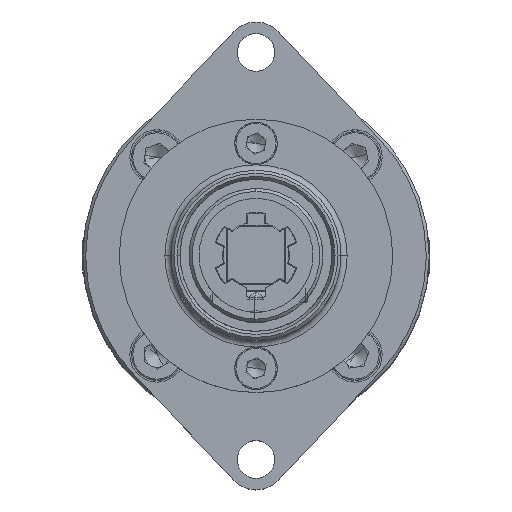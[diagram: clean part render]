
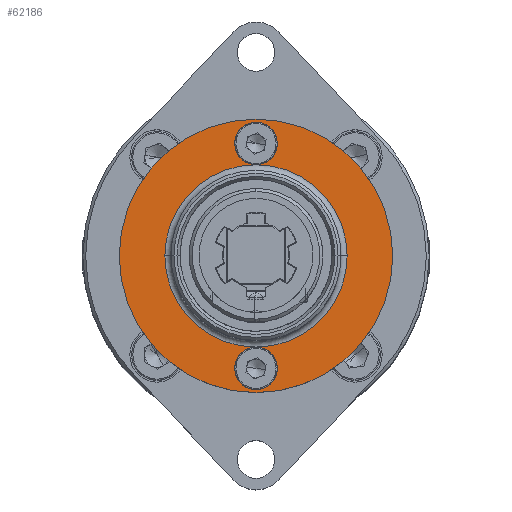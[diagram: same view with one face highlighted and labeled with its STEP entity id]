
A CAD part, top view. The second image highlights one B-rep face of the part: STEP entity #62186.
In plain terms, the highlighted planar face has unit normal (0, 0, 1).
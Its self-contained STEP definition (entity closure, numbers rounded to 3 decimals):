
#376 = DIRECTION ( 'NONE',  ( -1., 0., 0. ) ) ;
#966 = DIRECTION ( 'NONE',  ( 0., 0., 1. ) ) ;
#1004 = VERTEX_POINT ( 'NONE', #47673 ) ;
#1164 = AXIS2_PLACEMENT_3D ( 'NONE', #44330, #37409, #30505 ) ;
#1461 = VERTEX_POINT ( 'NONE', #20444 ) ;
#5680 = EDGE_CURVE ( 'NONE', #16303, #16757, #63317, .T. ) ;
#6707 = DIRECTION ( 'NONE',  ( -1., 0., 0. ) ) ;
#6791 = CIRCLE ( 'NONE', #43040, 3.5 ) ;
#7240 = DIRECTION ( 'NONE',  ( 0., 0., 1. ) ) ;
#7374 = CARTESIAN_POINT ( 'NONE',  ( 2.414, 17.96, 47.6 ) ) ;
#7486 = ORIENTED_EDGE ( 'NONE', *, *, #57465, .F. ) ;
#7809 = CARTESIAN_POINT ( 'NONE',  ( -1.086, -19.04, 47.6 ) ) ;
#8553 = DIRECTION ( 'NONE',  ( -1., 0., 0. ) ) ;
#8804 = AXIS2_PLACEMENT_3D ( 'NONE', #20464, #13594, #6707 ) ;
#10016 = ORIENTED_EDGE ( 'NONE', *, *, #23177, .T. ) ;
#10427 = VERTEX_POINT ( 'NONE', #7374 ) ;
#11132 = CIRCLE ( 'NONE', #1164, 3.5 ) ;
#11314 = CARTESIAN_POINT ( 'NONE',  ( -4.586, -19.04, 47.6 ) ) ;
#11786 = CARTESIAN_POINT ( 'NONE',  ( -1.086, -0.54, 47.6 ) ) ;
#13594 = DIRECTION ( 'NONE',  ( 0., 0., 1. ) ) ;
#13696 = DIRECTION ( 'NONE',  ( -1., 0., 0. ) ) ;
#14129 = CARTESIAN_POINT ( 'NONE',  ( -1.086, -0.54, 47.6 ) ) ;
#14207 = EDGE_CURVE ( 'NONE', #55293, #18981, #11132, .T. ) ;
#14294 = ORIENTED_EDGE ( 'NONE', *, *, #37477, .F. ) ;
#15327 = CIRCLE ( 'NONE', #8804, 3.5 ) ;
#15426 = DIRECTION ( 'NONE',  ( 0., 0., -1. ) ) ;
#16303 = VERTEX_POINT ( 'NONE', #59217 ) ;
#16757 = VERTEX_POINT ( 'NONE', #54662 ) ;
#18044 = FACE_BOUND ( 'NONE', #64609, .T. ) ;
#18242 = AXIS2_PLACEMENT_3D ( 'NONE', #36457, #29571, #22728 ) ;
#18794 = CARTESIAN_POINT ( 'NONE',  ( -1.086, -0.54, 47.6 ) ) ;
#18981 = VERTEX_POINT ( 'NONE', #30163 ) ;
#19774 = FACE_OUTER_BOUND ( 'NONE', #20829, .T. ) ;
#19885 = ORIENTED_EDGE ( 'NONE', *, *, #49207, .T. ) ;
#19889 = AXIS2_PLACEMENT_3D ( 'NONE', #42927, #15426, #8553 ) ;
#20444 = CARTESIAN_POINT ( 'NONE',  ( 21.414, -0.54, 47.6 ) ) ;
#20464 = CARTESIAN_POINT ( 'NONE',  ( -1.086, 17.96, 47.6 ) ) ;
#20467 = ORIENTED_EDGE ( 'NONE', *, *, #58301, .T. ) ;
#20568 = DIRECTION ( 'NONE',  ( 0., 0., 1. ) ) ;
#20829 = EDGE_LOOP ( 'NONE', ( #20467, #48745 ) ) ;
#20995 = PLANE ( 'NONE',  #59123 ) ;
#22108 = AXIS2_PLACEMENT_3D ( 'NONE', #7809, #966, #61128 ) ;
#22728 = DIRECTION ( 'NONE',  ( -1., 0., 0. ) ) ;
#23177 = EDGE_CURVE ( 'NONE', #16757, #1004, #54347, .T. ) ;
#23414 = CARTESIAN_POINT ( 'NONE',  ( 13.914, -0.54, 47.6 ) ) ;
#26097 = CIRCLE ( 'NONE', #22108, 3.5 ) ;
#26312 = CIRCLE ( 'NONE', #52502, 22.5 ) ;
#27286 = EDGE_CURVE ( 'NONE', #1004, #10427, #15327, .T. ) ;
#27340 = CARTESIAN_POINT ( 'NONE',  ( -23.586, -0.54, 47.6 ) ) ;
#27397 = CARTESIAN_POINT ( 'NONE',  ( -1.086, 17.96, 47.6 ) ) ;
#29571 = DIRECTION ( 'NONE',  ( 0., 0., 1. ) ) ;
#30163 = CARTESIAN_POINT ( 'NONE',  ( 2.414, -19.04, 47.6 ) ) ;
#30505 = DIRECTION ( 'NONE',  ( -1., 0., 0. ) ) ;
#30812 = CIRCLE ( 'NONE', #61703, 15. ) ;
#31389 = CARTESIAN_POINT ( 'NONE',  ( -4.586, 17.96, 47.6 ) ) ;
#31653 = CIRCLE ( 'NONE', #18242, 22.5 ) ;
#32427 = DIRECTION ( 'NONE',  ( -1., 0., 0. ) ) ;
#32606 = EDGE_CURVE ( 'NONE', #16303, #55293, #26097, .T. ) ;
#34620 = ORIENTED_EDGE ( 'NONE', *, *, #35331, .F. ) ;
#35331 = EDGE_CURVE ( 'NONE', #39933, #1004, #6791, .T. ) ;
#35813 = VERTEX_POINT ( 'NONE', #27340 ) ;
#36457 = CARTESIAN_POINT ( 'NONE',  ( -1.086, -0.54, 47.6 ) ) ;
#37409 = DIRECTION ( 'NONE',  ( 0., 0., 1. ) ) ;
#37477 = EDGE_CURVE ( 'NONE', #10427, #39933, #38988, .T. ) ;
#37765 = DIRECTION ( 'NONE',  ( -1., 0., 0. ) ) ;
#38927 = VERTEX_POINT ( 'NONE', #23414 ) ;
#38988 = CIRCLE ( 'NONE', #47116, 3.5 ) ;
#39336 = DIRECTION ( 'NONE',  ( 0., 0., 1. ) ) ;
#39802 = ORIENTED_EDGE ( 'NONE', *, *, #32606, .F. ) ;
#39933 = VERTEX_POINT ( 'NONE', #31389 ) ;
#42534 = ORIENTED_EDGE ( 'NONE', *, *, #5680, .T. ) ;
#42927 = CARTESIAN_POINT ( 'NONE',  ( -1.086, -0.54, 47.6 ) ) ;
#43040 = AXIS2_PLACEMENT_3D ( 'NONE', #27397, #20568, #13696 ) ;
#44330 = CARTESIAN_POINT ( 'NONE',  ( -1.086, -19.04, 47.6 ) ) ;
#44522 = DIRECTION ( 'NONE',  ( -1., 0., 0. ) ) ;
#44650 = DIRECTION ( 'NONE',  ( 0., 0., -1. ) ) ;
#46181 = CARTESIAN_POINT ( 'NONE',  ( -1.086, -0.54, 47.6 ) ) ;
#46300 = DIRECTION ( 'NONE',  ( -1., 0., 0. ) ) ;
#46451 = CIRCLE ( 'NONE', #57010, 3.5 ) ;
#46663 = DIRECTION ( 'NONE',  ( -1., 0., 0. ) ) ;
#47116 = AXIS2_PLACEMENT_3D ( 'NONE', #60016, #53197, #46300 ) ;
#47673 = CARTESIAN_POINT ( 'NONE',  ( -1.086, 14.46, 47.6 ) ) ;
#48745 = ORIENTED_EDGE ( 'NONE', *, *, #49008, .T. ) ;
#49008 = EDGE_CURVE ( 'NONE', #35813, #1461, #26312, .T. ) ;
#49207 = EDGE_CURVE ( 'NONE', #1004, #38927, #62555, .T. ) ;
#50553 = DIRECTION ( 'NONE',  ( -1., 0., 0. ) ) ;
#51371 = DIRECTION ( 'NONE',  ( 0., 0., -1. ) ) ;
#51618 = AXIS2_PLACEMENT_3D ( 'NONE', #60368, #53553, #46663 ) ;
#52502 = AXIS2_PLACEMENT_3D ( 'NONE', #46181, #39336, #32427 ) ;
#53197 = DIRECTION ( 'NONE',  ( 0., 0., 1. ) ) ;
#53553 = DIRECTION ( 'NONE',  ( 0., 0., -1. ) ) ;
#54347 = CIRCLE ( 'NONE', #51618, 15. ) ;
#54662 = CARTESIAN_POINT ( 'NONE',  ( -16.086, -0.54, 47.6 ) ) ;
#54702 = AXIS2_PLACEMENT_3D ( 'NONE', #18794, #44650, #37765 ) ;
#55293 = VERTEX_POINT ( 'NONE', #11314 ) ;
#55453 = ORIENTED_EDGE ( 'NONE', *, *, #27286, .F. ) ;
#57010 = AXIS2_PLACEMENT_3D ( 'NONE', #64228, #57409, #50553 ) ;
#57249 = ORIENTED_EDGE ( 'NONE', *, *, #14207, .F. ) ;
#57327 = EDGE_CURVE ( 'NONE', #38927, #16303, #30812, .T. ) ;
#57409 = DIRECTION ( 'NONE',  ( 0., 0., 1. ) ) ;
#57465 = EDGE_CURVE ( 'NONE', #18981, #16303, #46451, .T. ) ;
#58301 = EDGE_CURVE ( 'NONE', #1461, #35813, #31653, .T. ) ;
#59123 = AXIS2_PLACEMENT_3D ( 'NONE', #14129, #7240, #376 ) ;
#59217 = CARTESIAN_POINT ( 'NONE',  ( -1.086, -15.54, 47.6 ) ) ;
#60016 = CARTESIAN_POINT ( 'NONE',  ( -1.086, 17.96, 47.6 ) ) ;
#60368 = CARTESIAN_POINT ( 'NONE',  ( -1.086, -0.54, 47.6 ) ) ;
#61128 = DIRECTION ( 'NONE',  ( -1., 0., 0. ) ) ;
#61703 = AXIS2_PLACEMENT_3D ( 'NONE', #11786, #51371, #44522 ) ;
#62186 = ADVANCED_FACE ( 'NONE', ( #18044, #19774 ), #20995, .T. ) ;
#62555 = CIRCLE ( 'NONE', #54702, 15. ) ;
#62758 = ORIENTED_EDGE ( 'NONE', *, *, #57327, .T. ) ;
#63317 = CIRCLE ( 'NONE', #19889, 15. ) ;
#64228 = CARTESIAN_POINT ( 'NONE',  ( -1.086, -19.04, 47.6 ) ) ;
#64609 = EDGE_LOOP ( 'NONE', ( #55453, #19885, #62758, #7486, #57249, #39802, #42534, #10016, #34620, #14294 ) ) ;
